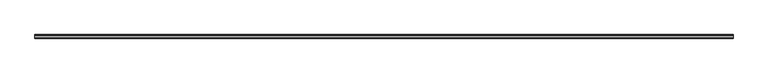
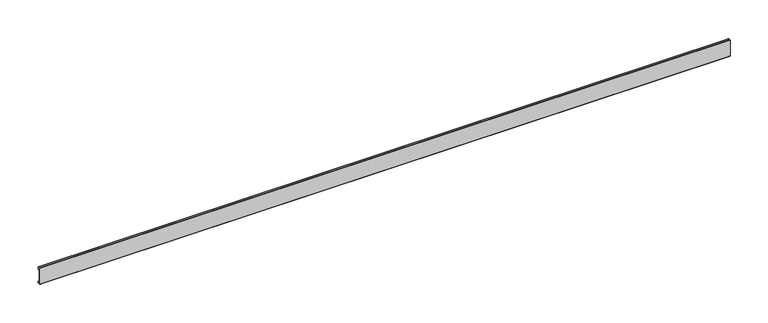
"""IFC4 building model written with IfcOpenShell, lengths in millimetres: proxy geometry, Weiku - Montante - Capa de folha 02.3.02.406 : Weiku - Montante - Capa de folha 02.3.02.406."""

from ifc_helpers import new_model, si_unit, point, frame, frame_2d, origin, place, context, project, spatial, polyline, circle_curve, trimmed, segment, composite_curve, outline, extrude, source, transform, mapped, element, save


def generic_models_fefdc9c3(model_context):
    return source(origin(), model_context, "Body", "SweptSolid", [
        extrude(outline(composite_curve([segment(polyline([(4.6421508, 2.2715508), (5.3603515, 1.056104)]), True, "CONTINUOUS"), segment(trimmed(circle_curve(frame_2d((4.7576991, 0.7)), 0.7), [point((5.3603515, 1.056104))], [point((4.7576991, 0.0))], False, "CARTESIAN"), True, "CONTINUOUS"), segment(polyline([(4.7576991, 0.0), (0.5, 0.0)]), True, "CONTINUOUS"), segment(trimmed(circle_curve(frame_2d((0.5, 0.5)), 0.5), [point((0.5, 0.0))], [point((0.0, 0.5))], False, "CARTESIAN"), True, "CONTINUOUS"), segment(polyline([(0.0, 0.5), (0.0, 26.2)]), True, "CONTINUOUS"), segment(trimmed(circle_curve(frame_2d((0.5, 26.2)), 0.5), [point((0.0, 26.2))], [point((0.5, 26.7))], False, "CARTESIAN"), True, "CONTINUOUS"), segment(polyline([(0.5, 26.7), (3.78, 26.7)]), True, "CONTINUOUS"), segment(trimmed(circle_curve(frame_2d((3.78, 26.2)), 0.5), [point((3.78, 26.7))], [point((4.28, 26.2))], False, "CARTESIAN"), True, "CONTINUOUS"), segment(polyline([(4.28, 26.2), (4.28, 22.3396), (3.3063, 22.3396), (3.3063, 25.684), (1.6933, 25.684), (1.6933, 1.016), (3.3866, 1.016), (4.6421508, 2.2715508)]), True, "CONTINUOUS")], self_intersect=False)), frame((-525.2, 0.0, 0.0), z_axis=(1.0, 0.0, 0.0), x_axis=(0.0, 1.0, 0.0)), (0.0, 0.0, 1.0), 1050.4),
    ])


if __name__ == "__main__":
    model = new_model("IFC4")
    model_context = context("Model", 3, world=origin())
    ifc_project = project(units=[si_unit("LENGTHUNIT", "METRE", prefix="MILLI")], contexts=[model_context])
    site = spatial("IfcSite", under=ifc_project)
    building = spatial("IfcBuilding", under=site)
    placement = place(None, origin())
    generic_models_shape = generic_models_fefdc9c3(model_context)
    element("IfcBuildingElementProxy", 1, Name="Weiku - Montante - Capa de folha 02.3.02.406 : Weiku - Montante - Capa de folha 02.3.02.406", ObjectType="Weiku - Montante - Capa de folha 02.3.02.406 : Weiku - Montante - Capa de folha 02.3.02.406", at=placement, inside=building, context=model_context, shape_type="MappedRepresentation", body=[
        mapped(generic_models_shape, transform((0.0, 0.0, 0.0), x_axis=(1.0, 0.0, 0.0), y_axis=(0.0, 1.0, 0.0), z_axis=(0.0, 0.0, 1.0))),
    ])
    save(model, "model.ifc")
